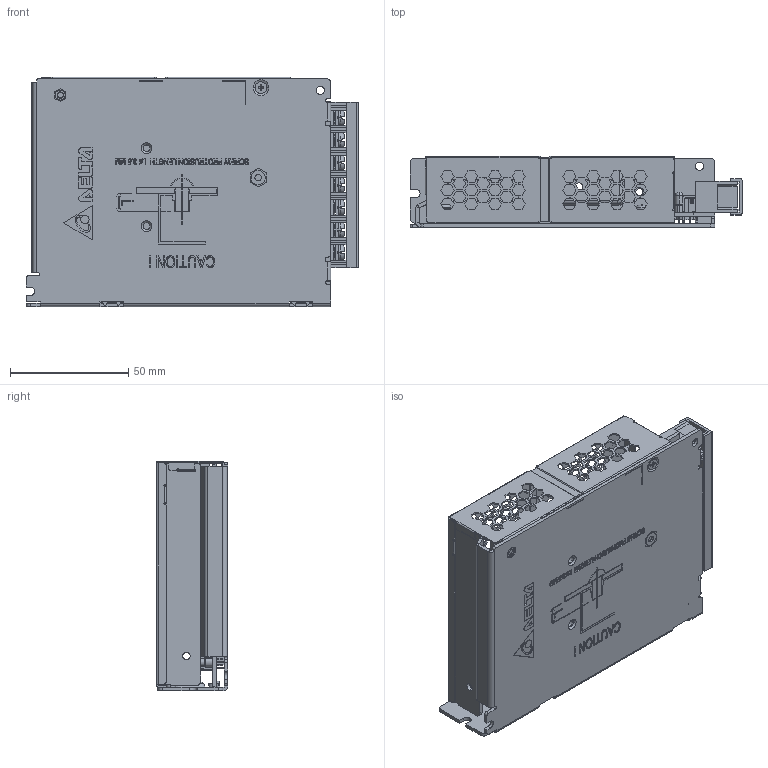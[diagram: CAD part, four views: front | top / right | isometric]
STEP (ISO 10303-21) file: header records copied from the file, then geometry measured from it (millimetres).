
FILE_DESCRIPTION((''),'2;1');
FILE_NAME('PMH-12V100WCLV_ASM','2018-03-09T',('Kidsada.Kohk'),(''),'PRO/ENGINEER BY PARAMETRIC TECHNOLOGY CORPORATION, 2010180','PRO/ENGINEER BY PARAMETRIC TECHNOLOGY CORPORATION, 2010180','');
FILE_SCHEMA(('CONFIG_CONTROL_DESIGN','SHAPE_APPEARANCE_LAYERS_GROUPS'));
Products named in the file (19): 330336890000_A_BODY; 330336890000_A_STUD6-32; 330336890000_A_STUDM3; 330336890000_ASM; 330336860000; PWB_MAINBOARD; 307049907W_BODY; TERM_T24-E03107A301_SCREW; 307049907W_COVER; 307049907W_ASM; EE_VR131; EE_LED370; 312330170000_LED-HOLDER; ASSY_PWB-MAINBOARD_ASM; 3103300600_6-32; 3105469000; 3100300700; 3263670900; PMH-12V100WCLV_ASM
Assembly tree (24 placements, depth 4):
  PMH-12V100WCLV_ASM
    330336890000_ASM
      330336890000_A_BODY
      330336890000_A_STUD6-32
      330336890000_A_STUDM3
    330336860000
    ASSY_PWB-MAINBOARD_ASM
      PWB_MAINBOARD
      307049907W_ASM
        307049907W_BODY
        TERM_T24-E03107A301_SCREW  x7
        307049907W_COVER
      EE_VR131
      EE_LED370
      312330170000_LED-HOLDER
    3103300600_6-32
    3105469000
    3100300700
    3263670900
Bounding box: 140.45 x 30.1 x 97 mm (x, y, z)
Volume: 63660.8 mm3; surface area: 103527.2 mm2
Topology: 21 solids, 21 shells, 5779 faces, 15732 edges, 9932 vertices
Faces by surface type: plane 4477, cylinder 505, extrusion 376, bspline 300, cone 83, torus 36, sphere 2
Entity records: 212500 total; most frequent: CARTESIAN_POINT 36939, ORIENTED_EDGE 28208, DIRECTION 23849, PRESENTATION_STYLE_ASSIGNMENT 14237, EDGE_CURVE 14104, STYLED_ITEM 13906, CURVE_STYLE 13892, VECTOR 12651
